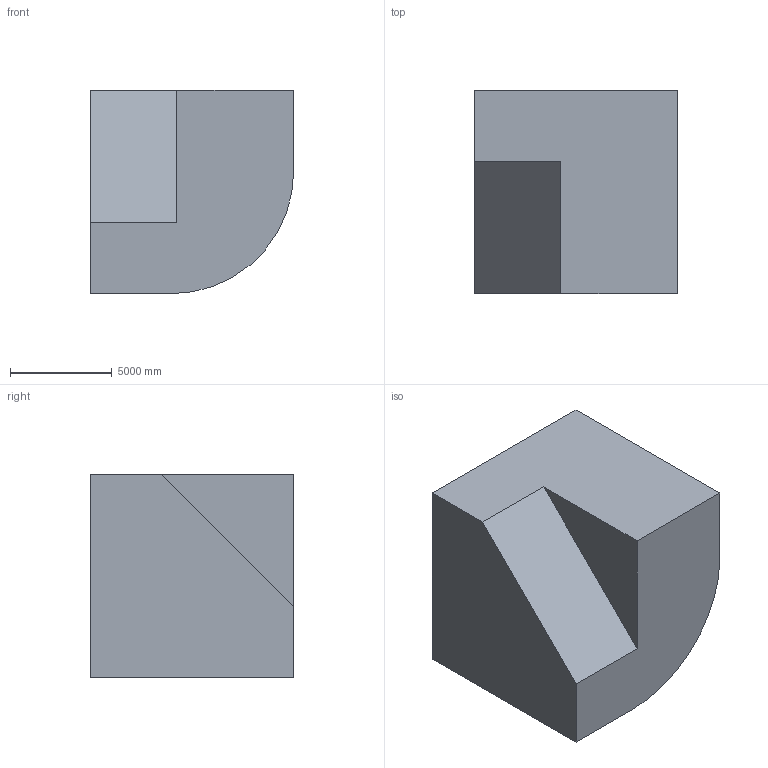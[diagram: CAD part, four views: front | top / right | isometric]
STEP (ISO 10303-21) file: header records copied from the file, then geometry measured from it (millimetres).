
FILE_DESCRIPTION (( 'STEP AP203' ), '1' );
FILE_NAME ('1055.STEP', '2022-08-18T12:35:07', ( 'user' ), ( '' ), 'SwSTEP 2.0', 'SolidWorks 2021', '' );
FILE_SCHEMA (( 'CONFIG_CONTROL_DESIGN' ));
Length unit declared in the file: centimetre
Products named in the file (1): 1055
Bounding box: 10000 x 10000 x 10000 mm (x, y, z)
Volume: 832978640791.9 mm3; surface area: 542584606.1 mm2
Topology: 1 solids, 1 shells, 9 faces, 21 edges, 14 vertices
Faces by surface type: plane 8, cylinder 1
Entity records: 334 total; most frequent: CARTESIAN_POINT 45, DIRECTION 43, ORIENTED_EDGE 42, EDGE_CURVE 21, VECTOR 19, LINE 19, VERTEX_POINT 14, AXIS2_PLACEMENT_3D 12
